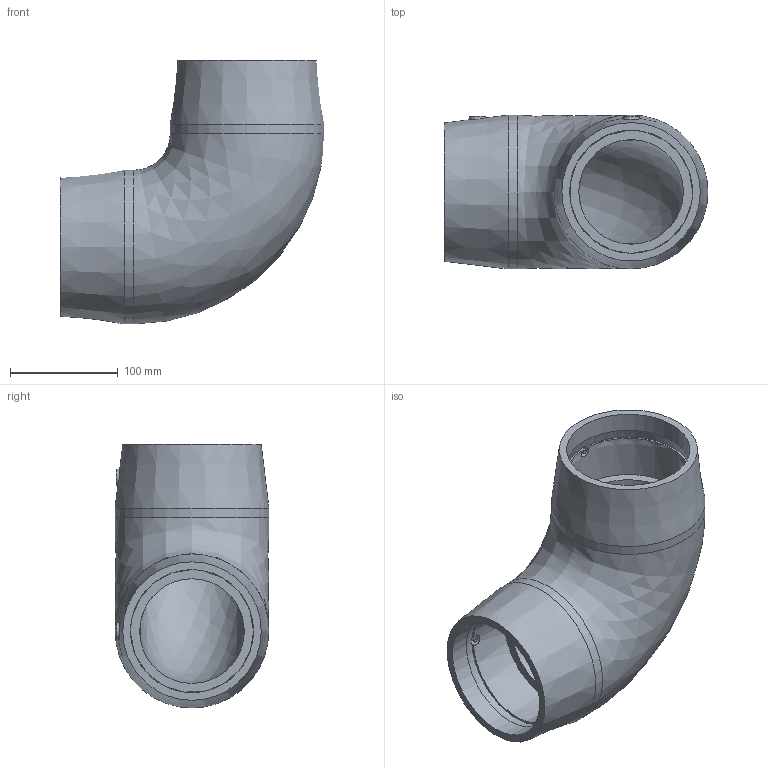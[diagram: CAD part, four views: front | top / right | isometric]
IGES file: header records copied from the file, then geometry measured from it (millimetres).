
Global section: file name: 5905B003040.ipt; native system: Autodesk Inventor 2019; preprocessor: unknown; author: KIM; date: 20210830.101001; units: inch
Bounding box: 244.61 x 142.49 x 244.61 mm (x, y, z)
Volume: 2003917.4 mm3; surface area: 245705.7 mm2
Topology: 3 solids, 3 shells, 30 faces, 78 edges, 54 vertices
Faces by surface type: revolution 12, plane 10, cone 4, cylinder 4
Full cylindrical faces by diameter (mm): 4 x2, 142.494 x2
